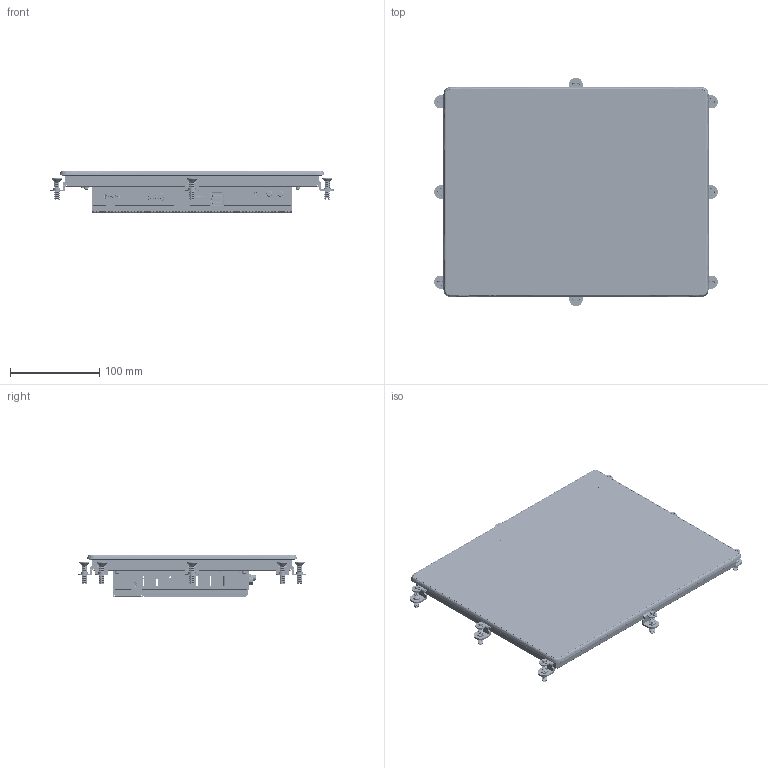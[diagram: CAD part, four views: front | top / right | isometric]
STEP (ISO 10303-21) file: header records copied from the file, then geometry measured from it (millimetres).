
FILE_DESCRIPTION((''),'2;1');
FILE_NAME('NPL4C-121','2026-06-02T10:52:56',('gijyu181'),(''),'CREO PARAMETRIC BY PTC INC, 2018050','CREO PARAMETRIC BY PTC INC, 2018050','');
FILE_SCHEMA(('CONFIG_CONTROL_DESIGN','SHAPE_APPEARANCE_LAYERS_GROUPS'));
Products named in the file (1): NPL4C-121
Bounding box: 317.6 x 256.1 x 46.9 mm (x, y, z)
Volume: 983822.8 mm3; surface area: 726853.6 mm2
Topology: 62 solids, 120 shells, 23962 faces, 70081 edges, 46140 vertices
Faces by surface type: plane 16208, cylinder 5397, extrusion 1201, cone 479, bspline 374, torus 158, sphere 129, revolution 16
Entity records: 967557 total; most frequent: CARTESIAN_POINT 223636, ORIENTED_EDGE 139870, DIRECTION 122374, EDGE_CURVE 70009, VECTOR 55044, LINE 53843, VERTEX_POINT 46138, AXIS2_PLACEMENT_3D 33657
